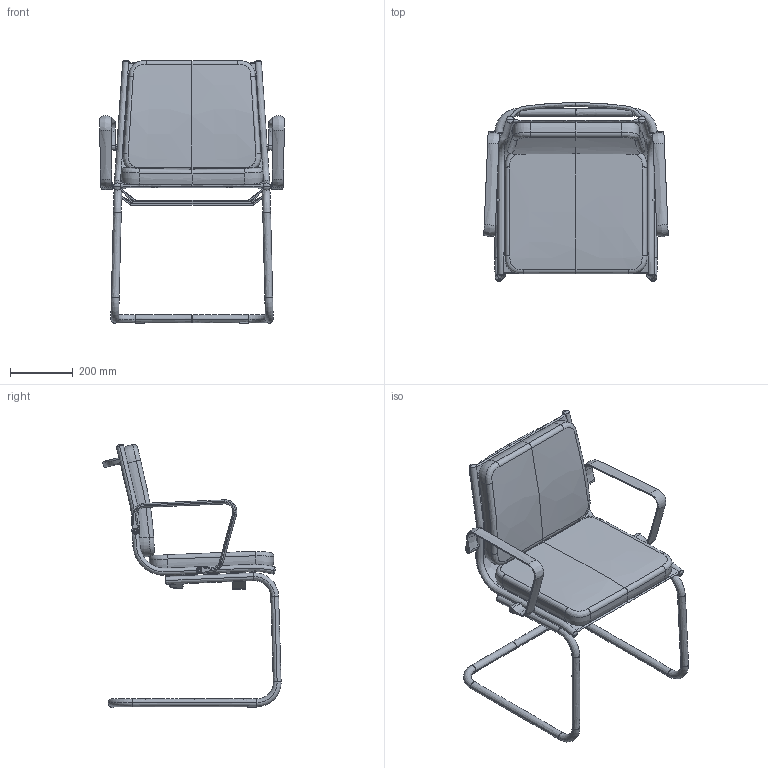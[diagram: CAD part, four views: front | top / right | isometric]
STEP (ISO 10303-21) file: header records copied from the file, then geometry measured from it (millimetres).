
FILE_DESCRIPTION(/* description */ (''),/* implementation_level */ '2;1');
FILE_NAME(/* name */ 'FLY704~1',/* time_stamp */ '2017-10-19T15:07:04+02:00',/* author */ (''),/* organization */ (''),/* preprocessor_version */ 'ST-DEVELOPER v15',/* originating_system */ '',/* authorisation */ '');
FILE_SCHEMA (('CONFIG_CONTROL_DESIGN'));
Length unit declared in the file: millimetre
Products named in the file (1): Document
Bounding box: 589.59 x 569.59 x 840.85 mm (x, y, z)
Volume: 1649683 mm3; surface area: 1889118.9 mm2
Topology: 14 solids, 24 shells, 314 faces, 753 edges, 478 vertices
Faces by surface type: bspline 212, plane 102
Entity records: 18169 total; most frequent: CARTESIAN_POINT 13761, ORIENTED_EDGE 1430, EDGE_CURVE 742, VERTEX_POINT 472, EDGE_LOOP 328, ADVANCED_FACE 314, FACE_OUTER_BOUND 314, B_SPLINE_CURVE_WITH_KNOTS 303
